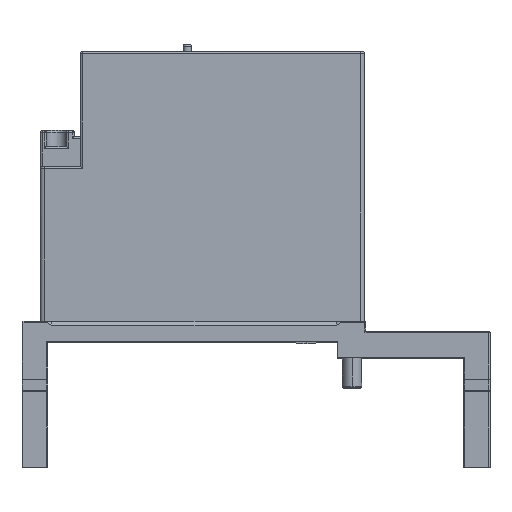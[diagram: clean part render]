
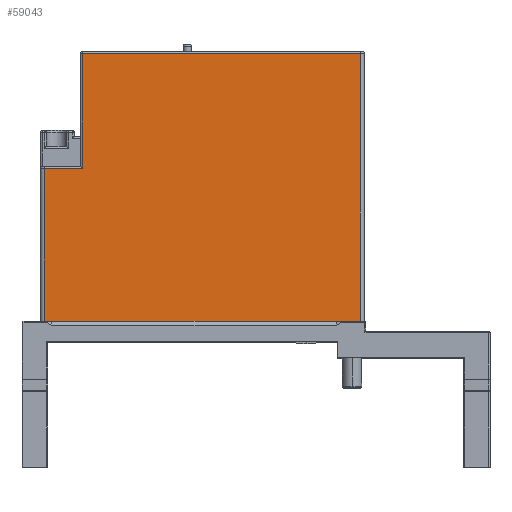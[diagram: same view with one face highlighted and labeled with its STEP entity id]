
A CAD part, top view. The second image highlights one B-rep face of the part: STEP entity #59043.
In plain terms, the highlighted planar face has unit normal (0, 0, 1).
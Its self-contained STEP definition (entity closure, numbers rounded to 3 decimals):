
#264 = CARTESIAN_POINT ( 'NONE',  ( -2767.486, -303.468, 114.394 ) ) ;
#4477 = DIRECTION ( 'NONE',  ( 0., 0., -1. ) ) ;
#5491 = CARTESIAN_POINT ( 'NONE',  ( -2620.153, -244.968, 114.394 ) ) ;
#5532 = B_SPLINE_CURVE_WITH_KNOTS ( 'NONE', 3,
 ( #80251, #32858, #9310, #57059 ),
 .UNSPECIFIED., .F., .F.,
 ( 4, 4 ),
 ( 0., 1. ),
 .UNSPECIFIED. ) ;
#6188 = EDGE_CURVE ( 'NONE', #84061, #81808, #90064, .T. ) ;
#6772 = CARTESIAN_POINT ( 'NONE',  ( -2622.153, -379.968, 114.394 ) ) ;
#7007 = CARTESIAN_POINT ( 'NONE',  ( -2780.153, -354.468, 114.394 ) ) ;
#9310 = CARTESIAN_POINT ( 'NONE',  ( -2622.153, -335.301, 114.394 ) ) ;
#11858 = EDGE_CURVE ( 'NONE', #81808, #40487, #98044, .T. ) ;
#13444 = DIRECTION ( 'NONE',  ( 0., -1., 0. ) ) ;
#13867 = CARTESIAN_POINT ( 'NONE',  ( -2761.153, -245.968, 114.394 ) ) ;
#14317 = CARTESIAN_POINT ( 'NONE',  ( -2780.153, -303.468, 114.394 ) ) ;
#14462 = FACE_OUTER_BOUND ( 'NONE', #37790, .T. ) ;
#17628 = EDGE_CURVE ( 'NONE', #40487, #53033, #28906, .T. ) ;
#18382 = ORIENTED_EDGE ( 'NONE', *, *, #44872, .F. ) ;
#20085 = VERTEX_POINT ( 'NONE', #88465 ) ;
#21273 = B_SPLINE_CURVE_WITH_KNOTS ( 'NONE', 3,
 ( #28289, #61804, #62860, #6772 ),
 .UNSPECIFIED., .F., .F.,
 ( 4, 4 ),
 ( 0., 1. ),
 .UNSPECIFIED. ) ;
#22241 = ORIENTED_EDGE ( 'NONE', *, *, #6188, .F. ) ;
#22968 = CARTESIAN_POINT ( 'NONE',  ( -2622.153, -245.968, 114.394 ) ) ;
#24802 = ORIENTED_EDGE ( 'NONE', *, *, #86739, .F. ) ;
#28289 = CARTESIAN_POINT ( 'NONE',  ( -2780.153, -379.968, 114.394 ) ) ;
#28906 = B_SPLINE_CURVE_WITH_KNOTS ( 'NONE', 3,
 ( #92772, #77148, #45340, #53609 ),
 .UNSPECIFIED., .F., .F.,
 ( 4, 4 ),
 ( 0., 1. ),
 .UNSPECIFIED. ) ;
#29652 = VERTEX_POINT ( 'NONE', #22968 ) ;
#30126 = CARTESIAN_POINT ( 'NONE',  ( -2668.486, -245.968, 114.394 ) ) ;
#30406 = AXIS2_PLACEMENT_3D ( 'NONE', #5491, #4477, #13444 ) ;
#31785 = CARTESIAN_POINT ( 'NONE',  ( -2780.153, -303.468, 114.394 ) ) ;
#32858 = CARTESIAN_POINT ( 'NONE',  ( -2622.153, -290.634, 114.394 ) ) ;
#33406 = ORIENTED_EDGE ( 'NONE', *, *, #17628, .F. ) ;
#37790 = EDGE_LOOP ( 'NONE', ( #76381, #22241, #56881, #24802, #18382, #33406 ) ) ;
#38496 = CARTESIAN_POINT ( 'NONE',  ( -2780.153, -328.968, 114.394 ) ) ;
#39049 = CARTESIAN_POINT ( 'NONE',  ( -2773.819, -303.468, 114.394 ) ) ;
#40057 = CARTESIAN_POINT ( 'NONE',  ( -2780.153, -303.468, 114.394 ) ) ;
#40487 = VERTEX_POINT ( 'NONE', #72089 ) ;
#44872 = EDGE_CURVE ( 'NONE', #53033, #29652, #57089, .T. ) ;
#45340 = CARTESIAN_POINT ( 'NONE',  ( -2761.153, -265.134, 114.394 ) ) ;
#47915 = CARTESIAN_POINT ( 'NONE',  ( -2780.153, -379.968, 114.394 ) ) ;
#51309 = CARTESIAN_POINT ( 'NONE',  ( -2761.153, -245.968, 114.394 ) ) ;
#53033 = VERTEX_POINT ( 'NONE', #51309 ) ;
#53609 = CARTESIAN_POINT ( 'NONE',  ( -2761.153, -245.968, 114.394 ) ) ;
#56881 = ORIENTED_EDGE ( 'NONE', *, *, #77005, .T. ) ;
#57059 = CARTESIAN_POINT ( 'NONE',  ( -2622.153, -379.968, 114.394 ) ) ;
#57089 = B_SPLINE_CURVE_WITH_KNOTS ( 'NONE', 3,
 ( #13867, #84474, #30126, #92108 ),
 .UNSPECIFIED., .F., .F.,
 ( 4, 4 ),
 ( 0., 1. ),
 .UNSPECIFIED. ) ;
#59043 = ADVANCED_FACE ( 'NONE', ( #14462 ), #91375, .F. ) ;
#61804 = CARTESIAN_POINT ( 'NONE',  ( -2727.486, -379.968, 114.394 ) ) ;
#62041 = CARTESIAN_POINT ( 'NONE',  ( -2780.153, -379.968, 114.394 ) ) ;
#62860 = CARTESIAN_POINT ( 'NONE',  ( -2674.819, -379.968, 114.394 ) ) ;
#72089 = CARTESIAN_POINT ( 'NONE',  ( -2761.153, -303.468, 114.394 ) ) ;
#76381 = ORIENTED_EDGE ( 'NONE', *, *, #11858, .F. ) ;
#77005 = EDGE_CURVE ( 'NONE', #84061, #20085, #21273, .T. ) ;
#77148 = CARTESIAN_POINT ( 'NONE',  ( -2761.153, -284.301, 114.394 ) ) ;
#79835 = CARTESIAN_POINT ( 'NONE',  ( -2761.153, -303.468, 114.394 ) ) ;
#80251 = CARTESIAN_POINT ( 'NONE',  ( -2622.153, -245.968, 114.394 ) ) ;
#81808 = VERTEX_POINT ( 'NONE', #40057 ) ;
#84061 = VERTEX_POINT ( 'NONE', #47915 ) ;
#84474 = CARTESIAN_POINT ( 'NONE',  ( -2714.819, -245.968, 114.394 ) ) ;
#86739 = EDGE_CURVE ( 'NONE', #29652, #20085, #5532, .T. ) ;
#88465 = CARTESIAN_POINT ( 'NONE',  ( -2622.153, -379.968, 114.394 ) ) ;
#90064 = B_SPLINE_CURVE_WITH_KNOTS ( 'NONE', 3,
 ( #62041, #7007, #38496, #14317 ),
 .UNSPECIFIED., .F., .F.,
 ( 4, 4 ),
 ( 0., 1. ),
 .UNSPECIFIED. ) ;
#91375 = PLANE ( 'NONE',  #30406 ) ;
#92108 = CARTESIAN_POINT ( 'NONE',  ( -2622.153, -245.968, 114.394 ) ) ;
#92772 = CARTESIAN_POINT ( 'NONE',  ( -2761.153, -303.468, 114.394 ) ) ;
#98044 = B_SPLINE_CURVE_WITH_KNOTS ( 'NONE', 3,
 ( #31785, #39049, #264, #79835 ),
 .UNSPECIFIED., .F., .F.,
 ( 4, 4 ),
 ( 0., 1. ),
 .UNSPECIFIED. ) ;
